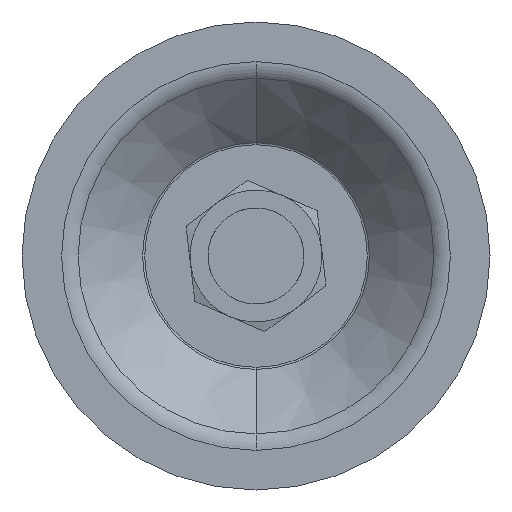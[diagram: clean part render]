
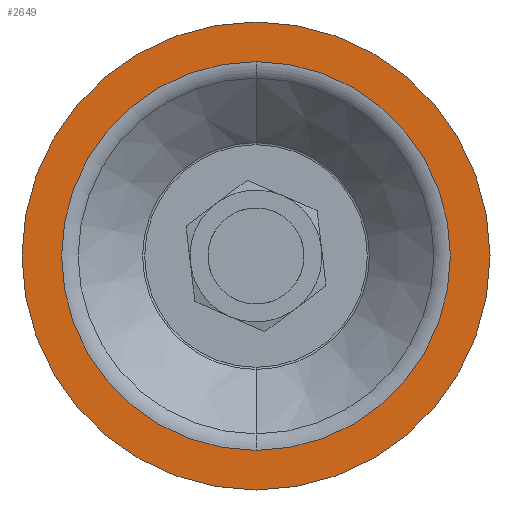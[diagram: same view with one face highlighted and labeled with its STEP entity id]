
A CAD part, front view. The second image highlights one B-rep face of the part: STEP entity #2649.
In plain terms, the highlighted planar face has unit normal (0, -1, 0).
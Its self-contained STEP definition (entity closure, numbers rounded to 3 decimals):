
#150 = EDGE_CURVE ( 'NONE', #631, #1088, #4344, .T. ) ;
#198 = CARTESIAN_POINT ( 'NONE',  ( 0., 0., 32.401 ) ) ;
#209 = VERTEX_POINT ( 'NONE', #4064 ) ;
#409 = ORIENTED_EDGE ( 'NONE', *, *, #150, .T. ) ;
#569 = FACE_BOUND ( 'NONE', #6183, .T. ) ;
#631 = VERTEX_POINT ( 'NONE', #198 ) ;
#646 = AXIS2_PLACEMENT_3D ( 'NONE', #6886, #3256, #6330 ) ;
#802 = DIRECTION ( 'NONE',  ( 0., 0., 1. ) ) ;
#825 = DIRECTION ( 'NONE',  ( 0., 1., 0. ) ) ;
#1088 = VERTEX_POINT ( 'NONE', #1369 ) ;
#1369 = CARTESIAN_POINT ( 'NONE',  ( 0., 0., -32.401 ) ) ;
#1447 = AXIS2_PLACEMENT_3D ( 'NONE', #6943, #4599, #3315 ) ;
#1506 = ORIENTED_EDGE ( 'NONE', *, *, #5616, .T. ) ;
#1751 = EDGE_LOOP ( 'NONE', ( #7087, #2987 ) ) ;
#1763 = AXIS2_PLACEMENT_3D ( 'NONE', #2627, #6869, #5661 ) ;
#2350 = CIRCLE ( 'NONE', #1763, 39. ) ;
#2627 = CARTESIAN_POINT ( 'NONE',  ( 0., 0., 0. ) ) ;
#2649 = ADVANCED_FACE ( 'NONE', ( #4290, #569 ), #4471, .F. ) ;
#2712 = CARTESIAN_POINT ( 'NONE',  ( 0., 0., 0. ) ) ;
#2819 = DIRECTION ( 'NONE',  ( 0., 1., 0. ) ) ;
#2987 = ORIENTED_EDGE ( 'NONE', *, *, #4557, .F. ) ;
#3256 = DIRECTION ( 'NONE',  ( 0., 1., 0. ) ) ;
#3282 = VERTEX_POINT ( 'NONE', #5965 ) ;
#3315 = DIRECTION ( 'NONE',  ( 0., 0., 1. ) ) ;
#3945 = AXIS2_PLACEMENT_3D ( 'NONE', #6279, #825, #802 ) ;
#4064 = CARTESIAN_POINT ( 'NONE',  ( 0., 0., 39. ) ) ;
#4290 = FACE_OUTER_BOUND ( 'NONE', #1751, .T. ) ;
#4344 = CIRCLE ( 'NONE', #5096, 32.401 ) ;
#4471 = PLANE ( 'NONE',  #3945 ) ;
#4557 = EDGE_CURVE ( 'NONE', #3282, #209, #5074, .T. ) ;
#4599 = DIRECTION ( 'NONE',  ( 0., 1., 0. ) ) ;
#4979 = CIRCLE ( 'NONE', #646, 32.401 ) ;
#5074 = CIRCLE ( 'NONE', #1447, 39. ) ;
#5096 = AXIS2_PLACEMENT_3D ( 'NONE', #2712, #2819, #6395 ) ;
#5616 = EDGE_CURVE ( 'NONE', #1088, #631, #4979, .T. ) ;
#5661 = DIRECTION ( 'NONE',  ( 0., 0., 1. ) ) ;
#5965 = CARTESIAN_POINT ( 'NONE',  ( 0., 0., -39. ) ) ;
#6183 = EDGE_LOOP ( 'NONE', ( #409, #1506 ) ) ;
#6279 = CARTESIAN_POINT ( 'NONE',  ( 39., 0., 0. ) ) ;
#6330 = DIRECTION ( 'NONE',  ( 0., 0., 1. ) ) ;
#6395 = DIRECTION ( 'NONE',  ( 0., 0., 1. ) ) ;
#6742 = EDGE_CURVE ( 'NONE', #209, #3282, #2350, .T. ) ;
#6869 = DIRECTION ( 'NONE',  ( 0., 1., 0. ) ) ;
#6886 = CARTESIAN_POINT ( 'NONE',  ( 0., 0., 0. ) ) ;
#6943 = CARTESIAN_POINT ( 'NONE',  ( 0., 0., 0. ) ) ;
#7087 = ORIENTED_EDGE ( 'NONE', *, *, #6742, .F. ) ;
